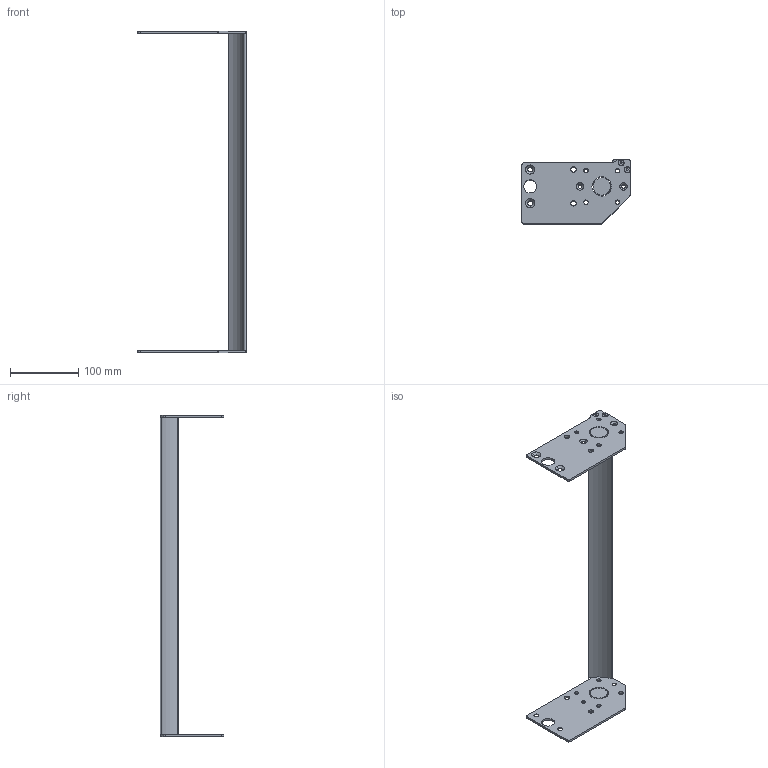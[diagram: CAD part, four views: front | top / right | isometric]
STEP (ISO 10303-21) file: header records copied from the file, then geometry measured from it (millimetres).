
FILE_DESCRIPTION((''),'2;1');
FILE_NAME('27M3300-18_ASM','2016-11-23T',('jenni.wallner'),(''),'PRO/ENGINEER BY PARAMETRIC TECHNOLOGY CORPORATION, 2012420','PRO/ENGINEER BY PARAMETRIC TECHNOLOGY CORPORATION, 2012420','');
FILE_SCHEMA(('CONFIG_CONTROL_DESIGN'));
Length unit declared in the file: inch
Products named in the file (5): 350539-18; 350540; 350541; 930410M; 27M3300-18_ASM
Assembly tree (7 placements, depth 2):
  27M3300-18_ASM
    350539-18
    350540
    350541
    930410M  x4
Bounding box: 157.96 x 92.74 x 469.7 mm (x, y, z)
Volume: 209095.2 mm3; surface area: 108276.1 mm2
Topology: 7 solids, 11 shells, 206 faces, 540 edges, 352 vertices
Faces by surface type: cylinder 96, plane 70, cone 40
Entity records: 5328 total; most frequent: DIRECTION 972, CARTESIAN_POINT 907, ORIENTED_EDGE 836, EDGE_CURVE 426, AXIS2_PLACEMENT_3D 383, VERTEX_POINT 280, EDGE_LOOP 220, CIRCLE 214
